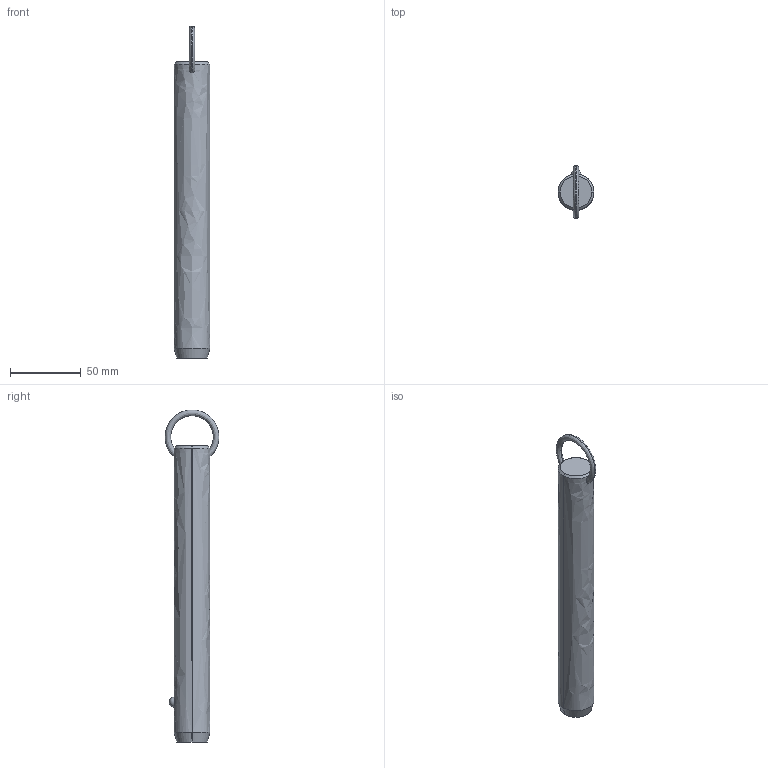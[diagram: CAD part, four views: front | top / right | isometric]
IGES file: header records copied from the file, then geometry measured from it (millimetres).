
Start section: SolidWorks IGES file using analytic representation for surfaces
Global section: file name: C:\Users\liam_\OneDrive\Documents\WORK\Work for WixRoyd\Job Files\J-00019 - Matt Davis CAD Checking\04. CAD Drawings\automotion20190605\P1250.2_v2\P1250.2_v2_20190729_IGES\P1250.100-650.igs; native system: SolidWorks 2017; preprocessor: SolidWorks 2017; author: liam_; date: 190730.174734; units: millimetre
Bounding box: 25.4 x 38.09 x 234.89 mm (x, y, z)
Surface area: 18490.7 mm2 (no closed solid volume)
Topology: 0 solids, 0 shells, 12 faces, 298 edges, 296 vertices
Faces by surface type: revolution 8, bspline 4
